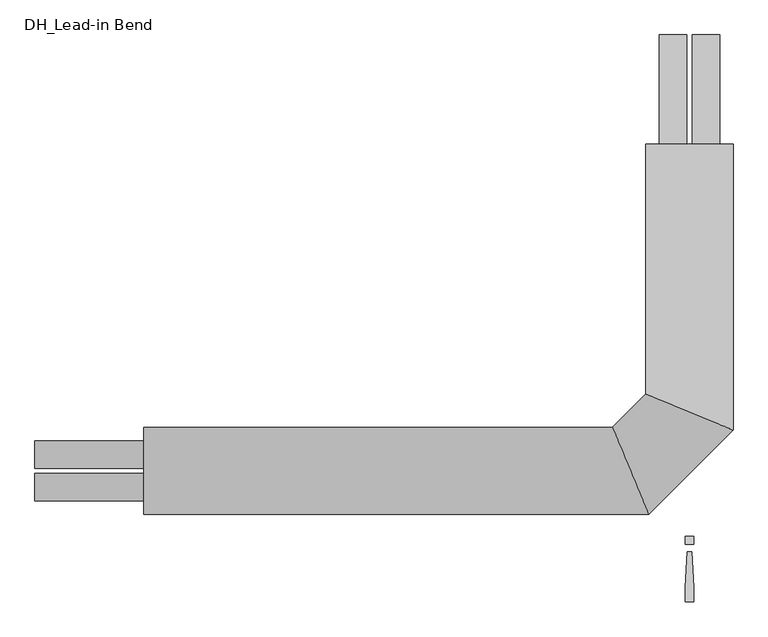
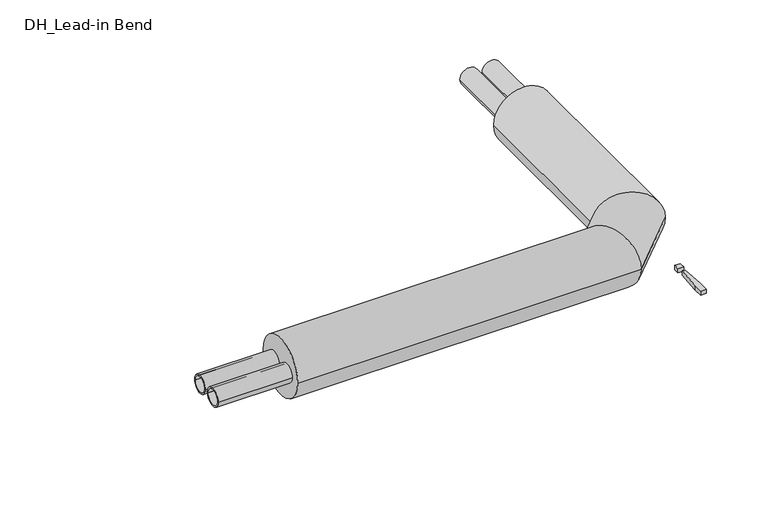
"""IFC4 building model written with IfcOpenShell, lengths in millimetres: pipe fitting geometry, DH_Lead-in Bend : INSULPEX DUO + 11 Heating Vertical."""

from ifc_helpers import new_model, si_unit, point, frame, frame_2d, origin, origin_with_axes, place, context, project, spatial, polyline, circle_curve, ellipse_curve, trimmed, segment, composite_curve, outline, extrude, source, transform, mapped, element, save
from ifc_brep_helpers import plane_surface, cylinder_surface, advanced_brep


def dh_lead_in_bend_2889cfca(model_context):
    return source(origin(), model_context, "Body", "SolidModel", [
        extrude(outline(composite_curve([segment(trimmed(circle_curve(frame_2d((-37.5, 0.0)), 31.5), [point((-6.0, 0.0))], [point((-69.0, 0.0))], False, "CARTESIAN"), True, "CONTINUOUS"), segment(trimmed(circle_curve(frame_2d((-37.5, 0.0)), 31.5), [point((-69.0, 0.0))], [point((-6.0, 0.0))], False, "CARTESIAN"), True, "CONTINUOUS")], self_intersect=False), holes=[composite_curve([segment(trimmed(circle_curve(frame_2d((-37.5, 0.0)), 25.7), [point((-11.8, 0.0))], [point((-63.2, 0.0))], True, "CARTESIAN"), True, "CONTINUOUS"), segment(trimmed(circle_curve(frame_2d((-37.5, 0.0)), 25.7), [point((-63.2, 0.0))], [point((-11.8, 0.0))], True, "CARTESIAN"), True, "CONTINUOUS")], self_intersect=False)]), frame((-1500.0, 0.0, 0.0), z_axis=(1.0, 0.0, 0.0), x_axis=(0.0, 1.0, 0.0)), (0.0, 0.0, 1.0), 250.0),
        advanced_brep(
        [(-1250.0, -100.0, 0.0), (-1250.0, 100.0, 0.0), (-93.5786438, -100.0, 0.0), (-176.4213562, 100.0, 0.0), (100.0, 750.0, 0.0), (-100.0, 750.0, 0.0), (-100.0, 176.4213562, 0.0), (100.0, 93.5786438, 0.0)],
        [
            (0, 1, circle_curve(frame((-1250.0, 0.0, 0.0), z_axis=(-1.0, 0.0, 0.0), x_axis=(0.0, 1.0, 0.0)), 100.0)),
            (1, 0, circle_curve(frame((-1250.0, 0.0, 0.0), z_axis=(-1.0, 0.0, 0.0), x_axis=(0.0, 1.0, 0.0)), 100.0)),
            (0, 2),
            (2, 3, ellipse_curve(frame((-135.0, 0.0, 0.0), z_axis=(-0.9238795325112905, -0.3826834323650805, 0.0), x_axis=(-0.38268343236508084, 0.9238795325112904, 0.0)), 108.23922, 100.0)),
            (3, 1),
            (3, 2, ellipse_curve(frame((-135.0, 0.0, 0.0), z_axis=(-0.9238795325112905, -0.3826834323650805, 0.0), x_axis=(-0.38268343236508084, 0.9238795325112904, 0.0)), 108.23922, 100.0)),
            (4, 5, circle_curve(frame((0.0, 750.0, 0.0), z_axis=(0.0, 1.0, 0.0), x_axis=(-1.0, 0.0, 0.0)), 100.0)),
            (5, 4, circle_curve(frame((0.0, 750.0, 0.0), z_axis=(0.0, 1.0, 0.0), x_axis=(-1.0, 0.0, 0.0)), 100.0)),
            (6, 7, ellipse_curve(frame((0.0, 135.0, 0.0), z_axis=(0.382683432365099, 0.923879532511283, 0.0), x_axis=(0.923879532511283, -0.3826834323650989, 0.0)), 108.23922, 100.0)),
            (7, 4),
            (5, 6),
            (7, 6, ellipse_curve(frame((0.0, 135.0, 0.0), z_axis=(0.382683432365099, 0.923879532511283, 0.0), x_axis=(0.923879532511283, -0.3826834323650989, 0.0)), 108.23922, 100.0)),
            (2, 7),
            (6, 3),
        ],
        [
            plane_surface(frame((-1250.0, 0.0, 0.0), z_axis=(-1.0, 0.0, 0.0), x_axis=(0.0, 0.0, 1.0))),
            cylinder_surface(frame((-1250.0, 0.0, 0.0), z_axis=(-1.0, 0.0, 0.0), x_axis=(0.0, 1.0, 0.0)), 100.0),
            plane_surface(frame((0.0, 750.0, 0.0), z_axis=(0.0, 1.0, 0.0), x_axis=(0.0, 0.0, 1.0))),
            cylinder_surface(frame((0.0, 135.0, 0.0), z_axis=(0.0, -1.0, 0.0), x_axis=(-1.0, 0.0, 0.0)), 100.0),
            cylinder_surface(frame((-135.0, 0.0, 0.0), z_axis=(-0.7071067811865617, -0.7071067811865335, 0.0), x_axis=(-0.7071067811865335, 0.7071067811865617, 0.0)), 100.0),
        ],
        [
            (0, [[1, 2]]),
            (1, [[-1, 3, 4, 5]]),
            (1, [[-2, -5, 6, -3]]),
            (2, [[7, 8]]),
            (3, [[9, 10, -8, 11]]),
            (3, [[12, -11, -7, -10]]),
            (4, [[-4, 13, -9, 14]]),
            (4, [[-6, -14, -12, -13]]),
        ],
    ),
        extrude(outline(composite_curve([segment(trimmed(circle_curve(frame_2d((0.0, -37.5)), 31.5), [point((0.0, -6.0))], [point((0.0, -69.0))], False, "CARTESIAN"), True, "CONTINUOUS"), segment(trimmed(circle_curve(frame_2d((0.0, -37.5)), 31.5), [point((0.0, -69.0))], [point((0.0, -6.0))], False, "CARTESIAN"), True, "CONTINUOUS")], self_intersect=False), holes=[composite_curve([segment(trimmed(circle_curve(frame_2d((0.0, -37.5)), 25.7), [point((0.0, -11.8))], [point((0.0, -63.2))], True, "CARTESIAN"), True, "CONTINUOUS"), segment(trimmed(circle_curve(frame_2d((0.0, -37.5)), 25.7), [point((0.0, -63.2))], [point((0.0, -11.8))], True, "CARTESIAN"), True, "CONTINUOUS")], self_intersect=False)]), frame((0.0, 750.0, 0.0), z_axis=(0.0, 1.0, 0.0), x_axis=(0.0, 0.0, 1.0)), (0.0, 0.0, 1.0), 250.0),
        extrude(outline(composite_curve([segment(trimmed(circle_curve(frame_2d((37.5, 0.0)), 31.5), [point((6.0, 0.0))], [point((69.0, 0.0))], False, "CARTESIAN"), True, "CONTINUOUS"), segment(trimmed(circle_curve(frame_2d((37.5, 0.0)), 31.5), [point((69.0, 0.0))], [point((6.0, 0.0))], False, "CARTESIAN"), True, "CONTINUOUS")], self_intersect=False), holes=[composite_curve([segment(trimmed(circle_curve(frame_2d((37.5, 0.0)), 25.7), [point((11.8, 0.0))], [point((63.2, 0.0))], True, "CARTESIAN"), True, "CONTINUOUS"), segment(trimmed(circle_curve(frame_2d((37.5, 0.0)), 25.7), [point((63.2, 0.0))], [point((11.8, 0.0))], True, "CARTESIAN"), True, "CONTINUOUS")], self_intersect=False)]), frame((-1500.0, 0.0, 0.0), z_axis=(1.0, 0.0, 0.0), x_axis=(0.0, 1.0, 0.0)), (0.0, 0.0, 1.0), 250.0),
        extrude(outline(composite_curve([segment(trimmed(circle_curve(frame_2d((0.0, 37.5)), 31.5), [point((0.0, 6.0))], [point((0.0, 69.0))], False, "CARTESIAN"), True, "CONTINUOUS"), segment(trimmed(circle_curve(frame_2d((0.0, 37.5)), 31.5), [point((0.0, 69.0))], [point((0.0, 6.0))], False, "CARTESIAN"), True, "CONTINUOUS")], self_intersect=False), holes=[composite_curve([segment(trimmed(circle_curve(frame_2d((0.0, 37.5)), 25.7), [point((0.0, 11.8))], [point((0.0, 63.2))], True, "CARTESIAN"), True, "CONTINUOUS"), segment(trimmed(circle_curve(frame_2d((0.0, 37.5)), 25.7), [point((0.0, 63.2))], [point((0.0, 11.8))], True, "CARTESIAN"), True, "CONTINUOUS")], self_intersect=False)]), frame((0.0, 750.0, 0.0), z_axis=(0.0, 1.0, 0.0), x_axis=(0.0, 0.0, 1.0)), (0.0, 0.0, 1.0), 250.0),
        extrude(outline(polyline([(4.7088895, -185.3166715), (9.4177791, -266.6553807), (9.4177791, -300.6844652), (-9.4177791, -300.6844652), (-9.4177791, -266.6553807), (-4.7088895, -185.3166715), (4.7088895, -185.3166715)])), origin_with_axes(), (0.0, 0.0, 1.0), 15.0),
        extrude(outline(polyline([(9.4177791, -150.0), (9.4177791, -168.8355582), (-9.4177791, -168.8355582), (-9.4177791, -150.0), (9.4177791, -150.0)])), origin_with_axes(), (0.0, 0.0, 1.0), 15.0),
    ])


if __name__ == "__main__":
    model = new_model("IFC4")
    model_context = context("Model", 3, world=origin())
    ifc_project = project(units=[si_unit("LENGTHUNIT", "METRE", prefix="MILLI")], contexts=[model_context])
    site = spatial("IfcSite", under=ifc_project)
    building = spatial("IfcBuilding", under=site)
    placement = place(None, origin())
    dh_lead_in_bend_shape = dh_lead_in_bend_2889cfca(model_context)
    element("IfcPipeFitting", 1, ObjectType="DH_Lead-in Bend : INSULPEX DUO + 11 Heating Vertical", at=placement, inside=building, context=model_context, shape_type="MappedRepresentation", body=[
        mapped(dh_lead_in_bend_shape, transform((0.0, 0.0, 0.0), x_axis=(1.0, 0.0, 0.0), y_axis=(0.0, 1.0, 0.0), z_axis=(0.0, 0.0, 1.0))),
    ])
    save(model, "model.ifc")
